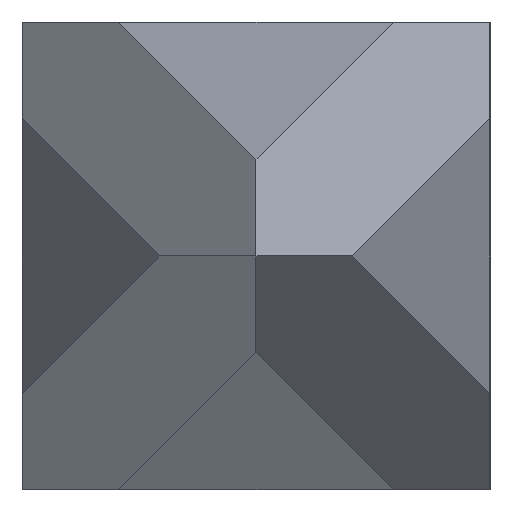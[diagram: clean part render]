
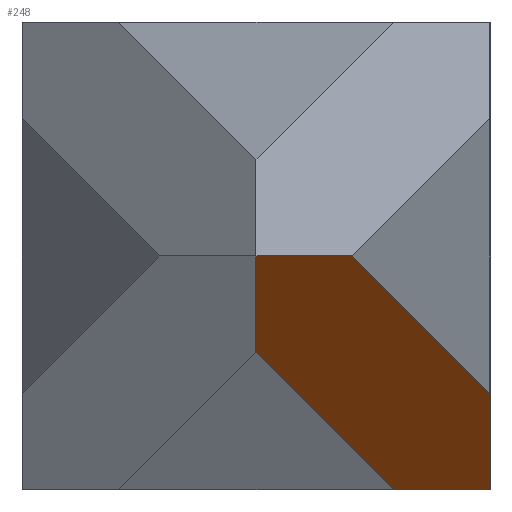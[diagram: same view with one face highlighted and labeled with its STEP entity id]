
A CAD part, left-side view. The second image highlights one B-rep face of the part: STEP entity #248.
In plain terms, the highlighted planar face has unit normal (-0.354, -0.661, -0.661).
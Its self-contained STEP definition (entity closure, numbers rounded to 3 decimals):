
#14=FACE_OUTER_BOUND('',#27,.T.);
#27=EDGE_LOOP('',(#157,#158,#159,#160,#161,#162));
#40=LINE('',#361,#72);
#41=LINE('',#363,#73);
#42=LINE('',#365,#74);
#43=LINE('',#367,#75);
#44=LINE('',#369,#76);
#45=LINE('',#370,#77);
#72=VECTOR('',#301,10.);
#73=VECTOR('',#302,10.);
#74=VECTOR('',#303,10.);
#75=VECTOR('',#304,10.);
#76=VECTOR('',#305,10.);
#77=VECTOR('',#306,10.);
#104=VERTEX_POINT('',#359);
#105=VERTEX_POINT('',#360);
#106=VERTEX_POINT('',#362);
#107=VERTEX_POINT('',#364);
#108=VERTEX_POINT('',#366);
#109=VERTEX_POINT('',#368);
#125=EDGE_CURVE('',#104,#105,#40,.T.);
#126=EDGE_CURVE('',#105,#106,#41,.T.);
#127=EDGE_CURVE('',#106,#107,#42,.T.);
#128=EDGE_CURVE('',#107,#108,#43,.T.);
#129=EDGE_CURVE('',#108,#109,#44,.T.);
#130=EDGE_CURVE('',#109,#104,#45,.T.);
#157=ORIENTED_EDGE('',*,*,#125,.T.);
#158=ORIENTED_EDGE('',*,*,#126,.T.);
#159=ORIENTED_EDGE('',*,*,#127,.T.);
#160=ORIENTED_EDGE('',*,*,#128,.T.);
#161=ORIENTED_EDGE('',*,*,#129,.T.);
#162=ORIENTED_EDGE('',*,*,#130,.T.);
#221=PLANE('',#284);
#248=ADVANCED_FACE('',(#14),#221,.T.);
#284=AXIS2_PLACEMENT_3D('',#358,#299,#300);
#299=DIRECTION('center_axis',(-0.354,-0.661,-0.661));
#300=DIRECTION('ref_axis',(-0.881,0.,0.472));
#301=DIRECTION('',(0.881,0.,-0.472));
#302=DIRECTION('',(0.935,-0.251,-0.251));
#303=DIRECTION('',(0.881,-0.472,0.));
#304=DIRECTION('',(-0.881,0.,0.472));
#305=DIRECTION('',(-0.935,0.251,0.251));
#306=DIRECTION('',(-0.881,0.472,0.));
#358=CARTESIAN_POINT('Origin',(0.242,0.452,0.452));
#359=CARTESIAN_POINT('',(1.928,0.,0.));
#360=CARTESIAN_POINT('',(3.855,0.,-1.033));
#361=CARTESIAN_POINT('',(2.112,0.,-0.099));
#362=CARTESIAN_POINT('',(9.33,-1.467,-2.5));
#363=CARTESIAN_POINT('',(0.242,0.968,-0.065));
#364=CARTESIAN_POINT('',(11.258,-2.5,-2.5));
#365=CARTESIAN_POINT('',(1.991,2.466,-2.5));
#366=CARTESIAN_POINT('',(9.33,-2.5,-1.467));
#367=CARTESIAN_POINT('',(0.95,-2.5,3.024));
#368=CARTESIAN_POINT('',(3.855,-1.033,0.));
#369=CARTESIAN_POINT('',(0.242,-0.065,0.968));
#370=CARTESIAN_POINT('',(2.632,-0.378,0.));
